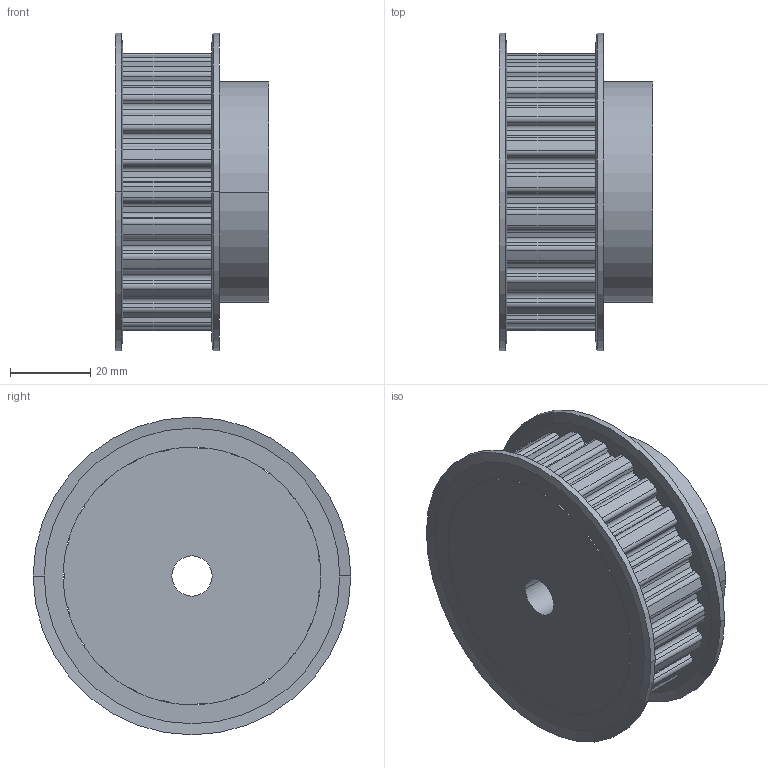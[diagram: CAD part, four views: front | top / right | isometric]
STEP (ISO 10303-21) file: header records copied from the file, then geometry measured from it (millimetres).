
FILE_DESCRIPTION( ( '' ), '1' );
FILE_NAME( 'C:/Users/Stangenbergd/Documents/CAD_Step/1/18222300.stp', '2021-10-19T10:37:33', ( '' ), ( '' ), ' ', ' ', ' ' );
FILE_SCHEMA( ( 'CONFIG_CONTROL_DESIGN' ) );
Length unit declared in the file: millimetre
Products named in the file (1): 1
Bounding box: 38.24 x 79 x 79 mm (x, y, z)
Volume: 119745.2 mm3; surface area: 23133.7 mm2
Topology: 1 solids, 1 shells, 304 faces, 1067 edges, 678 vertices
Faces by surface type: cylinder 220, plane 76, cone 8
Entity records: 11863 total; most frequent: DIRECTION 2217, ORIENTED_EDGE 2134, CARTESIAN_POINT 2050, EDGE_CURVE 1067, AXIS2_PLACEMENT_3D 845, VERTEX_POINT 678, CIRCLE 540, LINE 527
